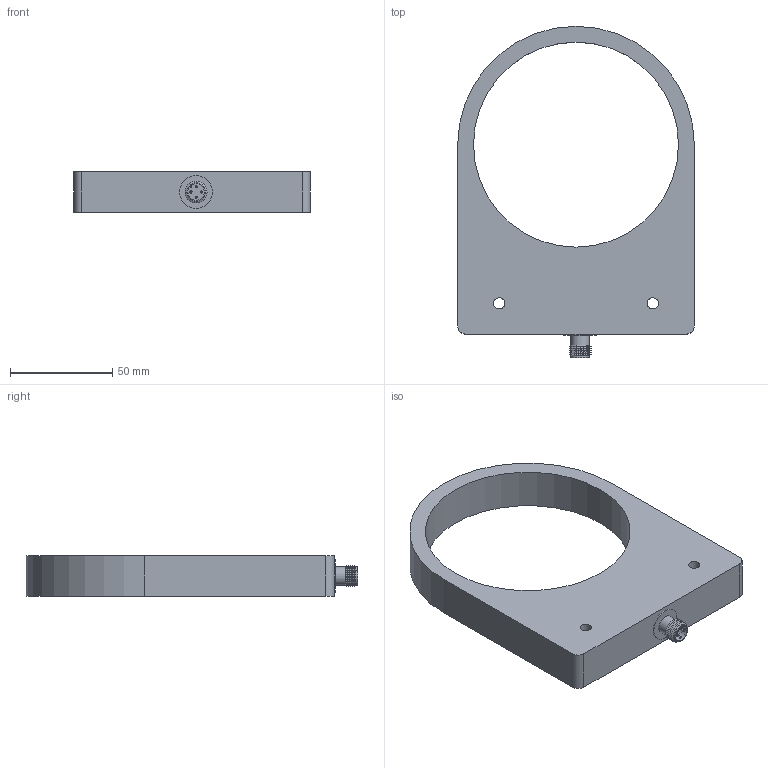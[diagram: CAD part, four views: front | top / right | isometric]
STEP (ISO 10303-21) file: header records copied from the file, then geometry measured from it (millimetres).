
FILE_DESCRIPTION(('FreeCAD Model'),'2;1');
FILE_NAME('Open CASCADE Shape Model','2021-12-17T12:38:19',( 'Thomas Reinhold'),('Eickmann Elektronik GmbH'), 'Open CASCADE STEP processor 7.4','FreeCAD','Unknown');
FILE_SCHEMA(('AUTOMOTIVE_DESIGN { 1 0 10303 214 1 1 1 1 }'));
Length unit declared in the file: millimetre
Products named in the file (3): IR_100_PSK_ST4; Anschluss; Body
Assembly tree (2 placements, depth 2):
  IR_100_PSK_ST4
    Anschluss
    Body
Bounding box: 115.5 x 161.75 x 20 mm (x, y, z)
Volume: 160700.4 mm3; surface area: 33678.6 mm2
Topology: 2 solids, 2 shells, 45 faces, 86 edges, 51 vertices
Faces by surface type: plane 18, cylinder 17, cone 10
Full cylindrical faces by diameter (mm): 1 x4, 5.5 x2, 9 x2, 16 x1, 100.1 x1
Entity records: 2344 total; most frequent: DIRECTION 393, CARTESIAN_POINT 381, LINE 183, VECTOR 183, ORIENTED_EDGE 176, PCURVE 172, DEFINITIONAL_REPRESENTATION 172, AXIS2_PLACEMENT_3D 91
